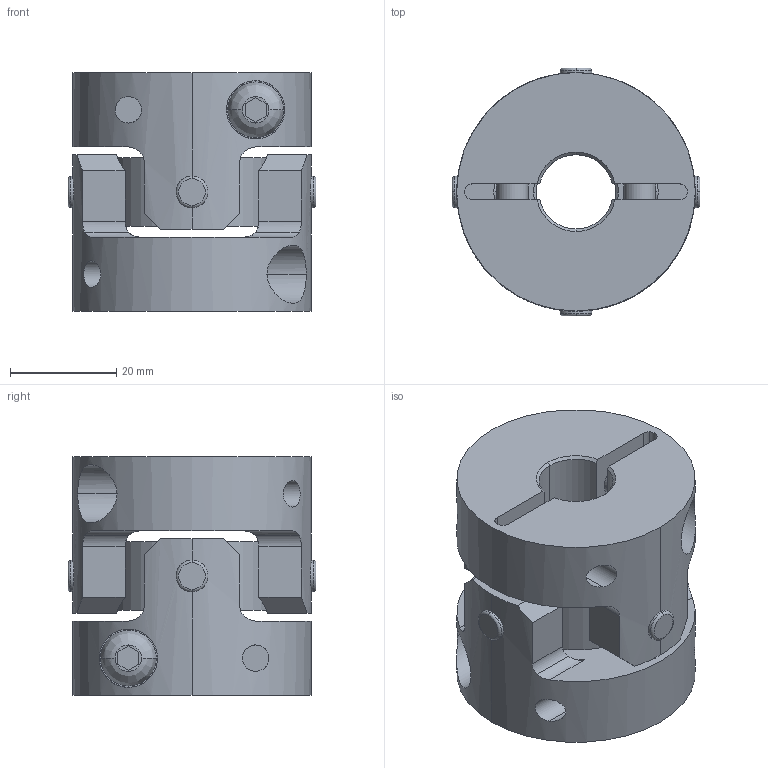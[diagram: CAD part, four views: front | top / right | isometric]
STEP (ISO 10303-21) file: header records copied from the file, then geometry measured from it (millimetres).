
FILE_DESCRIPTION((''),'2;1');
FILE_NAME('UA-45C-14×15.stp','2013-05-22T10:18:37',(''),(''),'AutoCAD STEP 2000i','AutoCAD 2000i',', , ');
FILE_SCHEMA(('CONFIG_CONTROL_DESIGN'));
Length unit declared in the file: millimetre
Products named in the file (6): UA-45C-8×8; 忣兜1; UA-4502-D08-1; BTN-M6; UA-4502-D08; UA45-SEN
Assembly tree (6 placements, depth 3):
  UA-45C-8×8
    忣兜1
    UA-4502-D08-1
      BTN-M6
    UA-4502-D08
      BTN-M6
    UA45-SEN
Bounding box: 46.73 x 46.73 x 45 mm (x, y, z)
Volume: 49017.6 mm3; surface area: 20153.5 mm2
Topology: 1 solids, 1 shells, 206 faces, 554 edges, 364 vertices
Faces by surface type: cylinder 96, plane 78, cone 16, bspline 8, torus 8
Entity records: 8523 total; most frequent: CARTESIAN_POINT 3207, ORIENTED_EDGE 1108, DIRECTION 1064, EDGE_CURVE 554, AXIS2_PLACEMENT_3D 409, VERTEX_POINT 364, VECTOR 246, LINE 246
